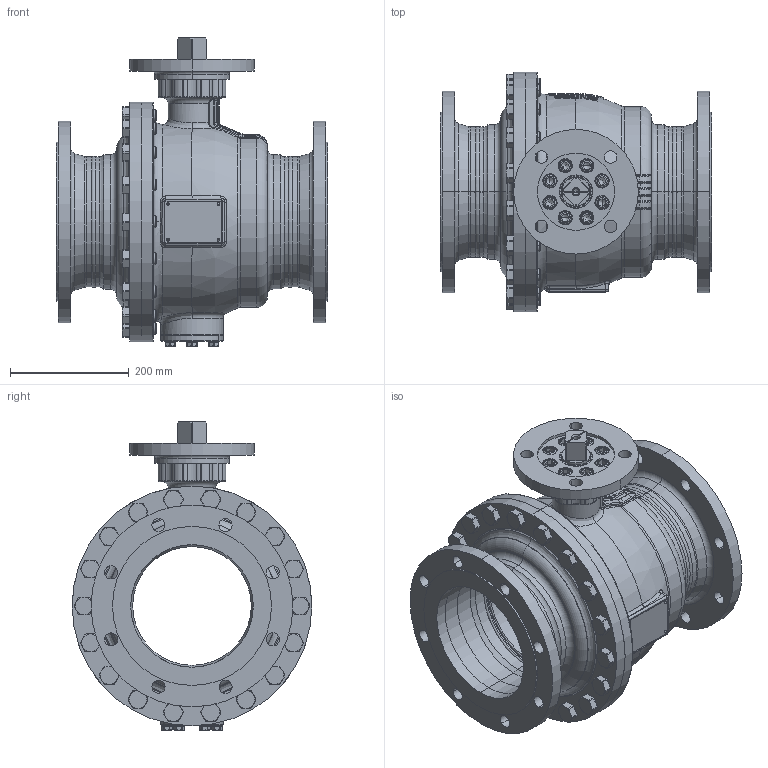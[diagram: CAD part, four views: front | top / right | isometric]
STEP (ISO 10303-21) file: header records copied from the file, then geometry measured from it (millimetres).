
FILE_DESCRIPTION((''),'2;1');
FILE_NAME('KHI-F_200_PN010-F16-4_SW0001','2026-02-05T13:18:58',('fischerkl'),('KLINGER'),'CREO PARAMETRIC BY PTC INC, 2023014','CREO PARAMETRIC BY PTC INC, 2023014','');
FILE_SCHEMA(('CONFIG_CONTROL_DESIGN'));
Products named in the file (1): KHI-F_200_PN010-F16-4_SW0001
Bounding box: 457 x 404 x 519.2 mm (x, y, z)
Volume: 12686806.1 mm3; surface area: 2252273.5 mm2
Topology: 1 solids, 4 shells, 3792 faces, 9674 edges, 6025 vertices
Faces by surface type: plane 2303, cylinder 698, cone 364, torus 289, bspline 108, sphere 30
Entity records: 147693 total; most frequent: CARTESIAN_POINT 58146, ORIENTED_EDGE 19296, DIRECTION 17777, EDGE_CURVE 9648, AXIS2_PLACEMENT_3D 6302, VERTEX_POINT 6025, VECTOR 5173, LINE 5173
